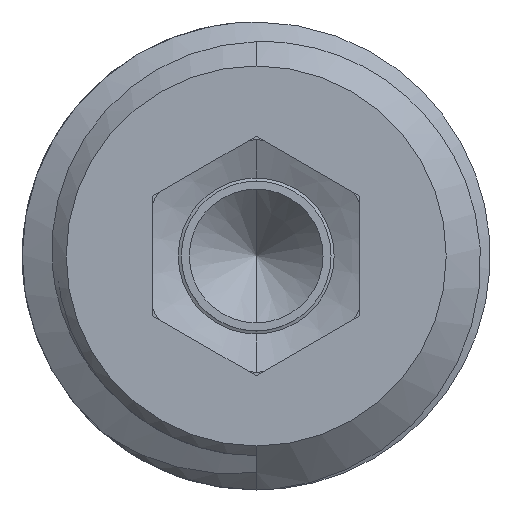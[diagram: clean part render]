
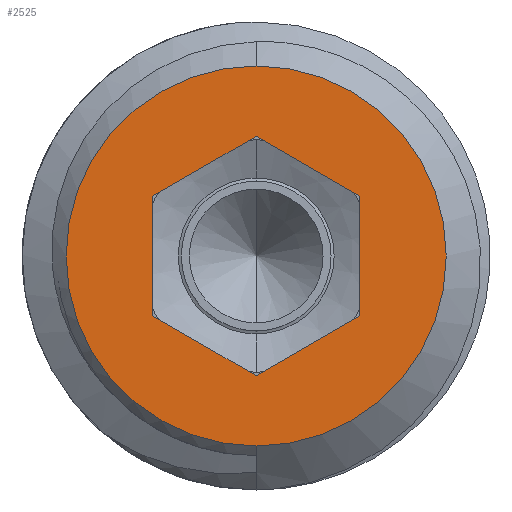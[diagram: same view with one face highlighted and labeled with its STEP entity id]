
A CAD part, left-side view. The second image highlights one B-rep face of the part: STEP entity #2525.
In plain terms, the highlighted planar face has unit normal (-1, 0, 0).
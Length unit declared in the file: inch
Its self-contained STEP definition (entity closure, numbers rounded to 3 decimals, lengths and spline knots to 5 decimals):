
#3 = EDGE_CURVE ( 'NONE', #2877, #1580, #330, .T. ) ;
#10 = DIRECTION ( 'NONE',  ( 0., 0., 1. ) ) ;
#180 = CARTESIAN_POINT ( 'NONE',  ( 0., 0., 0.07872 ) ) ;
#230 = EDGE_CURVE ( 'NONE', #3053, #2064, #2107, .T. ) ;
#246 = CARTESIAN_POINT ( 'NONE',  ( 0., 0., 0. ) ) ;
#250 = LINE ( 'NONE', #1255, #2591 ) ;
#297 = CARTESIAN_POINT ( 'NONE',  ( 0., 0.06818, -0.03936 ) ) ;
#329 = VECTOR ( 'NONE', #1142, 39.37008 ) ;
#330 = LINE ( 'NONE', #2808, #451 ) ;
#333 = ORIENTED_EDGE ( 'NONE', *, *, #1097, .F. ) ;
#347 = CARTESIAN_POINT ( 'NONE',  ( 0., -0.06818, 0.03936 ) ) ;
#351 = PLANE ( 'NONE',  #2397 ) ;
#359 = CARTESIAN_POINT ( 'NONE',  ( 0., 0., 0.125 ) ) ;
#369 = FACE_BOUND ( 'NONE', #2627, .T. ) ;
#400 = VECTOR ( 'NONE', #2823, 39.37008 ) ;
#431 = DIRECTION ( 'NONE',  ( 0., 0.866, -0.5 ) ) ;
#441 = CARTESIAN_POINT ( 'NONE',  ( 0., 0.06818, -0.03936 ) ) ;
#451 = VECTOR ( 'NONE', #817, 39.37008 ) ;
#493 = DIRECTION ( 'NONE',  ( -1., 0., 0. ) ) ;
#518 = ORIENTED_EDGE ( 'NONE', *, *, #3194, .T. ) ;
#676 = CIRCLE ( 'NONE', #2919, 0.125 ) ;
#813 = CARTESIAN_POINT ( 'NONE',  ( 0., 0., -0.07873 ) ) ;
#817 = DIRECTION ( 'NONE',  ( 0., -0.866, 0.5 ) ) ;
#820 = ORIENTED_EDGE ( 'NONE', *, *, #3, .F. ) ;
#836 = AXIS2_PLACEMENT_3D ( 'NONE', #246, #493, #2759 ) ;
#850 = DIRECTION ( 'NONE',  ( 0., 0., -1. ) ) ;
#911 = ORIENTED_EDGE ( 'NONE', *, *, #230, .F. ) ;
#987 = CARTESIAN_POINT ( 'NONE',  ( 0., -0.06818, -0.03936 ) ) ;
#1031 = ORIENTED_EDGE ( 'NONE', *, *, #2265, .T. ) ;
#1097 = EDGE_CURVE ( 'NONE', #2886, #2004, #2290, .T. ) ;
#1127 = LINE ( 'NONE', #297, #400 ) ;
#1142 = DIRECTION ( 'NONE',  ( 0., 0., -1. ) ) ;
#1157 = CARTESIAN_POINT ( 'NONE',  ( 0., 0.06818, 0.03936 ) ) ;
#1255 = CARTESIAN_POINT ( 'NONE',  ( 0., -0.06818, -0.03936 ) ) ;
#1338 = VECTOR ( 'NONE', #2048, 39.37008 ) ;
#1356 = CARTESIAN_POINT ( 'NONE',  ( 0., 0., 0. ) ) ;
#1376 = EDGE_LOOP ( 'NONE', ( #1031, #518 ) ) ;
#1422 = LINE ( 'NONE', #180, #3119 ) ;
#1459 = CARTESIAN_POINT ( 'NONE',  ( 0., 0., 0.07872 ) ) ;
#1580 = VERTEX_POINT ( 'NONE', #987 ) ;
#1626 = CARTESIAN_POINT ( 'NONE',  ( 0., 0.06818, 0.03936 ) ) ;
#1746 = CARTESIAN_POINT ( 'NONE',  ( 0., -0.06818, 0.03936 ) ) ;
#1785 = VERTEX_POINT ( 'NONE', #359 ) ;
#1811 = DIRECTION ( 'NONE',  ( 0., 0., -1. ) ) ;
#1930 = CIRCLE ( 'NONE', #836, 0.125 ) ;
#2004 = VERTEX_POINT ( 'NONE', #1459 ) ;
#2048 = DIRECTION ( 'NONE',  ( 0., 0.866, 0.5 ) ) ;
#2064 = VERTEX_POINT ( 'NONE', #441 ) ;
#2107 = LINE ( 'NONE', #1157, #329 ) ;
#2129 = DIRECTION ( 'NONE',  ( 1., 0., 0. ) ) ;
#2265 = EDGE_CURVE ( 'NONE', #2523, #1785, #1930, .T. ) ;
#2290 = LINE ( 'NONE', #1746, #1338 ) ;
#2322 = CARTESIAN_POINT ( 'NONE',  ( 0., 0., -0.125 ) ) ;
#2397 = AXIS2_PLACEMENT_3D ( 'NONE', #1356, #2129, #850 ) ;
#2515 = ORIENTED_EDGE ( 'NONE', *, *, #2888, .F. ) ;
#2523 = VERTEX_POINT ( 'NONE', #2322 ) ;
#2525 = ADVANCED_FACE ( 'NONE', ( #369, #2827 ), #351, .F. ) ;
#2591 = VECTOR ( 'NONE', #10, 39.37008 ) ;
#2627 = EDGE_LOOP ( 'NONE', ( #820, #2515, #911, #2894, #333, #2674 ) ) ;
#2674 = ORIENTED_EDGE ( 'NONE', *, *, #3011, .F. ) ;
#2759 = DIRECTION ( 'NONE',  ( 0., 0., -1. ) ) ;
#2808 = CARTESIAN_POINT ( 'NONE',  ( 0., 0., -0.07873 ) ) ;
#2823 = DIRECTION ( 'NONE',  ( 0., -0.866, -0.5 ) ) ;
#2827 = FACE_OUTER_BOUND ( 'NONE', #1376, .T. ) ;
#2877 = VERTEX_POINT ( 'NONE', #813 ) ;
#2886 = VERTEX_POINT ( 'NONE', #347 ) ;
#2888 = EDGE_CURVE ( 'NONE', #2064, #2877, #1127, .T. ) ;
#2894 = ORIENTED_EDGE ( 'NONE', *, *, #3067, .F. ) ;
#2919 = AXIS2_PLACEMENT_3D ( 'NONE', #3060, #3033, #1811 ) ;
#3011 = EDGE_CURVE ( 'NONE', #1580, #2886, #250, .T. ) ;
#3033 = DIRECTION ( 'NONE',  ( -1., 0., 0. ) ) ;
#3053 = VERTEX_POINT ( 'NONE', #1626 ) ;
#3060 = CARTESIAN_POINT ( 'NONE',  ( 0., 0., 0. ) ) ;
#3067 = EDGE_CURVE ( 'NONE', #2004, #3053, #1422, .T. ) ;
#3119 = VECTOR ( 'NONE', #431, 39.37008 ) ;
#3194 = EDGE_CURVE ( 'NONE', #1785, #2523, #676, .T. ) ;
